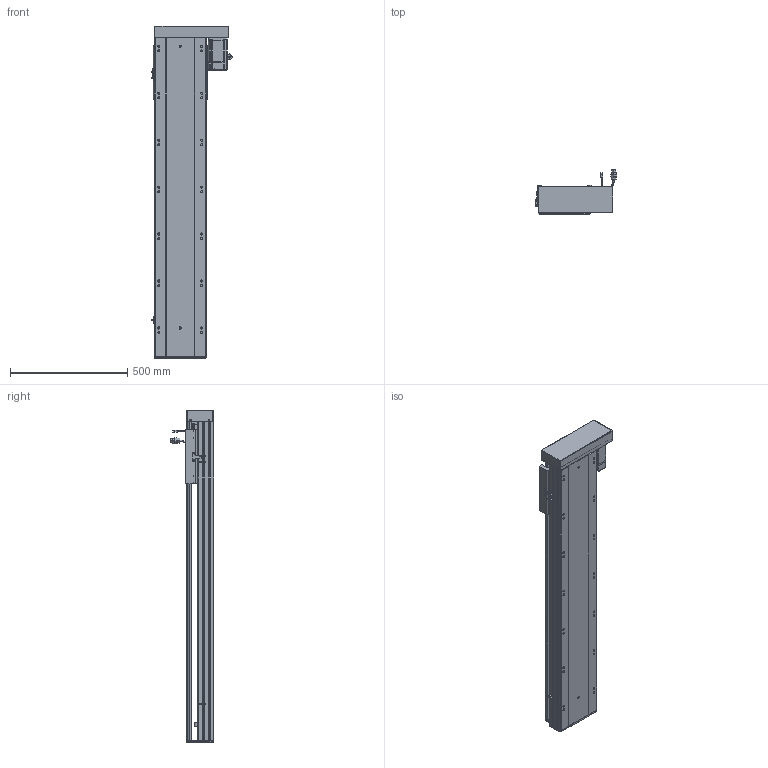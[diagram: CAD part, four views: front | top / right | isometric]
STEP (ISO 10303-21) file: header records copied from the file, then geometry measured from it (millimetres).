
FILE_DESCRIPTION (( 'STEP AP203' ), '1' );
FILE_NAME ('RY220-L2525-800-RK-邧嶺.SLDASM_1000.step', '2022-08-06T08:52:46', ( '' ), ( '' ), 'SwSTEP 2.0', 'SolidWorks 2016', '' );
FILE_SCHEMA (( 'CONFIG_CONTROL_DESIGN' ));
Length unit declared in the file: millimetre
Products named in the file (12): 覜茼ん672; RY220蛌殏菁釱-800-邧嶺_1000; 滅袉蝶18-15; 怢湛750W_ECMA-CX0807ES; RY220-L2525-800-RK-邧嶺.SLDASM_1000; RY220綴裔啣; RY220酘衵殏萇儂欶; RY220半封闭25-32螺母铝滑块; RY220-俋离672覜茼んえ; RY220-800-蛌殏奻裔啣_1000; 滅袉蝶18-10; RY220左右折电机安装板
Assembly tree (15 placements, depth 2):
  RY220-L2525-800-RK-邧嶺.SLDASM_1000
    RY220蛌殏菁釱-800-邧嶺_1000
    RY220-800-蛌殏奻裔啣_1000
    怢湛750W_ECMA-CX0807ES
    滅袉蝶18-10  x2
    RY220-俋离672覜茼んえ
    覜茼ん672  x3
    RY220綴裔啣
    RY220半封闭25-32螺母铝滑块
    滅袉蝶18-15  x2
    RY220左右折电机安装板
    RY220酘衵殏萇儂欶
Bounding box: 347.44 x 187.27 x 1414 mm (x, y, z)
Volume: 11738874.8 mm3; surface area: 3441088.2 mm2
Topology: 16 solids, 16 shells, 2175 faces, 5996 edges, 3789 vertices
Faces by surface type: cylinder 975, plane 904, cone 226, bspline 44, sphere 16, torus 10
Entity records: 71635 total; most frequent: CARTESIAN_POINT 20725, ORIENTED_EDGE 10568, DIRECTION 9936, EDGE_CURVE 5284, AXIS2_PLACEMENT_3D 3485, VERTEX_POINT 3445, LINE 2966, VECTOR 2966
